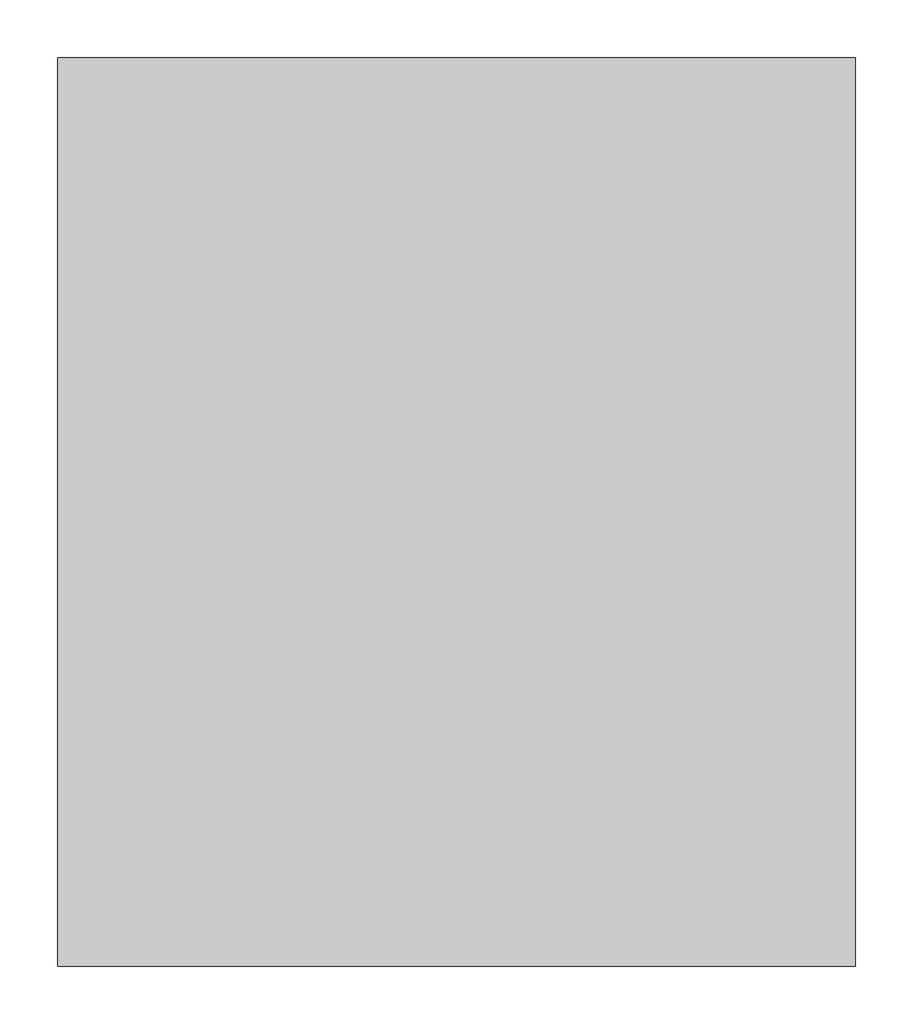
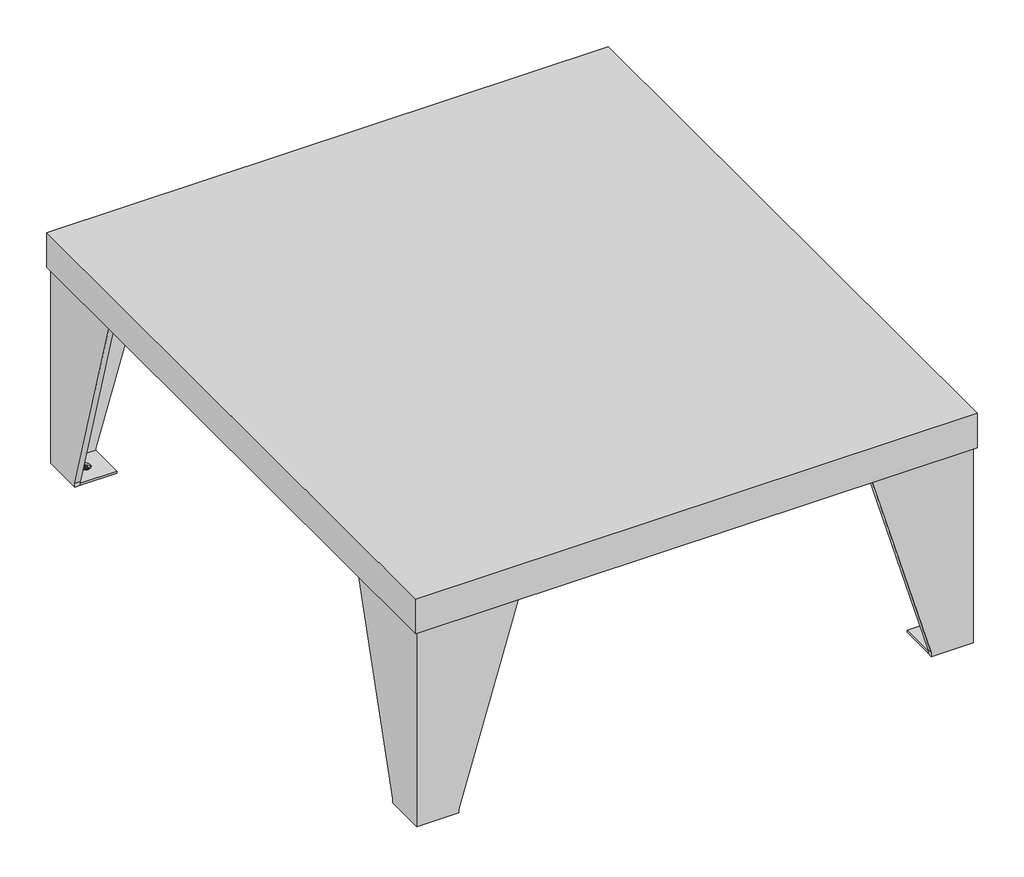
# Not in any storey: 1 proxy.
"""IFC4 building model written with IfcOpenShell, lengths in millimetres."""

from ifc_helpers import new_model, si_unit, origin, place, context, project, spatial, transform, mapped, element, save
from components import specialty_equipment_d00d0301

model = new_model("IFC4")

# Units and contexts
model_context = context("Model", 3, world=origin())
ifc_project = project(units=[si_unit("LENGTHUNIT", "METRE", prefix="MILLI")], contexts=[model_context])

# Site, building
site = spatial("IfcSite", under=ifc_project)
building = spatial("IfcBuilding", under=site)

# Proxy
placement = place(None, origin())
specialty_equipment_shape = specialty_equipment_d00d0301(model_context)
element("IfcBuildingElementProxy", 1, Name="11792140_EU_APWM038_IG : 59510038_EU_11792140_APWM038_IG", ObjectType="11792140_EU_APWM038_IG : 59510038_EU_11792140_APWM038_IG", at=placement, inside=building, context=model_context, shape_type="MappedRepresentation", body=[
    mapped(specialty_equipment_shape, transform((0.0, 0.0, 0.0), x_axis=(1.0, 0.0, 0.0), y_axis=(0.0, 1.0, 0.0), z_axis=(0.0, 0.0, 1.0))),
])

save(model, "model.ifc")
